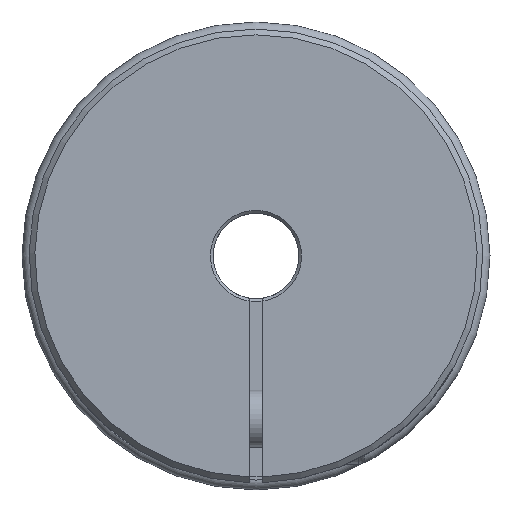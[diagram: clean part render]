
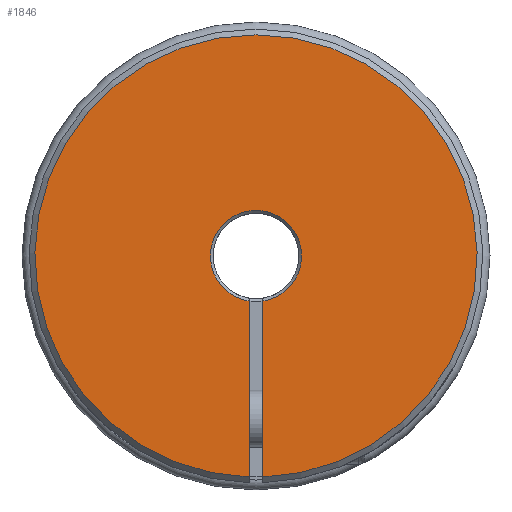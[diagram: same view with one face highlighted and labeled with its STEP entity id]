
A CAD part, left-side view. The second image highlights one B-rep face of the part: STEP entity #1846.
In plain terms, the highlighted planar face has unit normal (-1, 0, 0).
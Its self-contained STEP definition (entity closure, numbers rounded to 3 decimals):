
#147=LINE('',#3398,#241);
#148=LINE('',#3400,#242);
#241=VECTOR('',#2610,1000.);
#242=VECTOR('',#2611,1000.);
#582=ORIENTED_EDGE('',*,*,#884,.F.);
#583=ORIENTED_EDGE('',*,*,#883,.T.);
#584=ORIENTED_EDGE('',*,*,#885,.F.);
#585=ORIENTED_EDGE('',*,*,#886,.F.);
#883=EDGE_CURVE('',#1073,#1074,#1210,.T.);
#884=EDGE_CURVE('',#1073,#1075,#147,.T.);
#885=EDGE_CURVE('',#1076,#1074,#148,.T.);
#886=EDGE_CURVE('',#1075,#1076,#1211,.T.);
#1073=VERTEX_POINT('',#3393);
#1074=VERTEX_POINT('',#3395);
#1075=VERTEX_POINT('',#3399);
#1076=VERTEX_POINT('',#3401);
#1210=CIRCLE('',#2091,38.75);
#1211=CIRCLE('',#2093,8.);
#1408=EDGE_LOOP('',(#582,#583,#584,#585));
#1627=FACE_BOUND('',#1408,.T.);
#1724=PLANE('',#2092);
#1846=ADVANCED_FACE('',(#1627),#1724,.T.);
#2091=AXIS2_PLACEMENT_3D('',#3396,#2606,#2607);
#2092=AXIS2_PLACEMENT_3D('',#3397,#2608,#2609);
#2093=AXIS2_PLACEMENT_3D('',#3402,#2612,#2613);
#2606=DIRECTION('',(-1.,0.,0.));
#2607=DIRECTION('',(0.,0.,1.));
#2608=DIRECTION('',(-1.,0.,0.));
#2609=DIRECTION('',(0.,0.,1.));
#2610=DIRECTION('',(0.,0.,1.));
#2611=DIRECTION('',(0.,0.,-1.));
#2612=DIRECTION('',(-1.,0.,0.));
#2613=DIRECTION('',(0.,0.,1.));
#3393=CARTESIAN_POINT('',(-52.,-1.2,-38.731));
#3395=CARTESIAN_POINT('',(-52.,1.2,-38.731));
#3396=CARTESIAN_POINT('',(-52.,0.,0.));
#3397=CARTESIAN_POINT('',(-52.,0.,7.5));
#3398=CARTESIAN_POINT('',(-52.,-1.2,-6.));
#3399=CARTESIAN_POINT('',(-52.,-1.2,-7.909));
#3400=CARTESIAN_POINT('',(-52.,1.2,-6.));
#3401=CARTESIAN_POINT('',(-52.,1.2,-7.909));
#3402=CARTESIAN_POINT('',(-52.,0.,0.));
